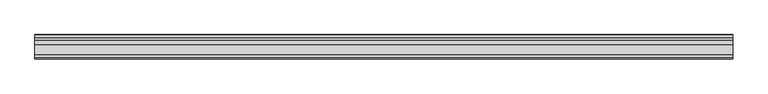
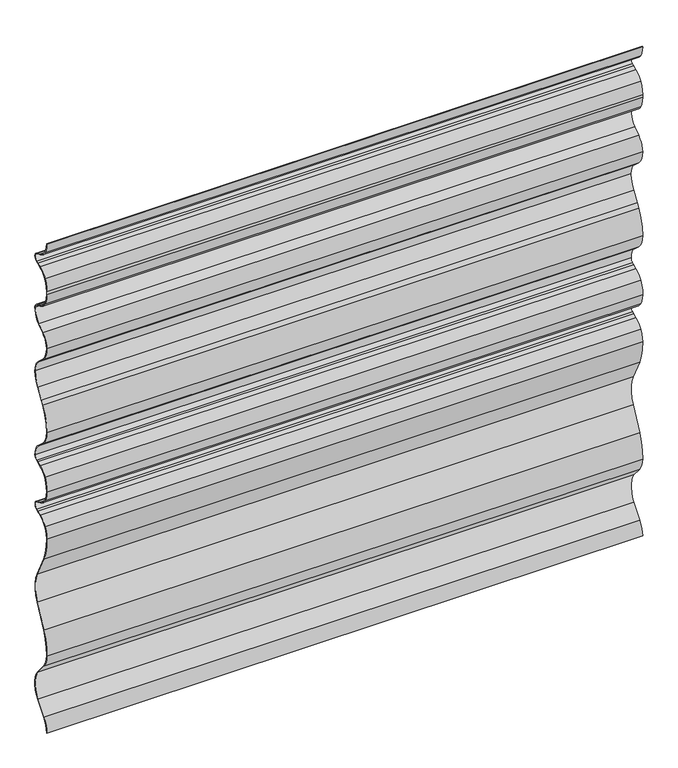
"""IFC4 building model written with IfcOpenShell, lengths in millimetres: plate geometry, Ritmica Horizontal 928 : Ritmica Horizontal 928."""

from ifc_helpers import new_model, si_unit, frame, origin, place, context, project, spatial, polyline, circle_curve, source, transform, mapped, element, save
from ifc_brep_helpers import plane_surface, cylinder_surface, revolved_surface, advanced_brep


def plate_3bc35dd9(model_context):
    return source(origin(), model_context, "Body", "AdvancedBrep", [
        advanced_brep(
        [(-534.5, 6.5092615, 908.0620129), (-534.5, 21.2621067, 895.6153968), (-534.5, 28.45755, 892.7364297), (-534.5, 31.9226364, 891.0770661), (-534.5, 31.9284533, 875.0954695), (-534.5, 28.4645758, 873.4335839), (-534.5, 21.2712303, 870.5493796), (-534.5, 6.5274495, 858.0920274), (-534.5, 0.7421798, 836.9983174), (-534.5, 0.7421798, 831.6596456), (-534.5, 6.5447465, 810.5701527), (-534.5, 21.2975918, 798.1235366), (-534.5, 28.493035, 795.2445695), (-534.5, 31.9581214, 793.5852059), (-534.5, 36.9921573, 785.5962388), (-534.5, 24.9656186, 760.6206134), (-534.5, 12.9828956, 751.0704574), (-534.5, 1.0048783, 728.5919745), (-534.5, 13.0090533, 701.127971), (-534.5, 24.9992939, 690.0241978), (-534.5, 37.0440106, 665.0573339), (-534.5, 28.6299997, 638.3240963), (-534.5, 17.4991449, 620.9910926), (-534.5, 13.1043036, 613.5575548), (-534.5, 0.921776, 569.3793833), (-534.5, 12.9259511, 541.9153798), (-534.5, 24.9161915, 530.8116067), (-534.5, 36.9609087, 505.8415328), (-534.5, 31.9326896, 497.8521133), (-534.5, 28.4688119, 496.1902275), (-534.5, 21.2754341, 493.3060102), (-534.5, 6.5316868, 480.8486726), (-534.5, 0.8337564, 457.0856569), (-534.5, 6.3430179, 437.5469103), (-534.5, 21.0958632, 425.1002943), (-534.5, 28.2913064, 422.2213272), (-534.5, 31.7563928, 420.5619636), (-534.5, 31.7622098, 404.580367), (-534.5, 28.2983323, 402.9184814), (-534.5, 21.1049867, 400.034277), (-534.5, 6.361206, 387.5769248), (-534.5, 0.8661693, 368.0341733), (-534.5, 10.0476711, 324.2892209), (-534.5, 30.4443377, 283.7581494), (-534.5, 30.4639577, 229.8542794), (-534.5, 10.0968014, 189.3083707), (-534.5, 0.9471466, 145.5567461), (-534.5, 9.5590077, 121.7925982), (-534.5, 28.254799, 99.3683726), (-534.5, 28.274038, 46.5109184), (-534.5, 9.5945757, 23.7707747), (-534.5, 1.0000163, 0.0), (-534.5, 1.63e-05, 0.0), (-534.5, 8.826039, 24.4105804), (-534.5, 27.4885473, 47.1303588), (-534.5, 27.4697594, 98.7483605), (-534.5, 8.790937, 121.1522332), (-534.5, -0.0528427, 145.5386154), (-534.5, 9.1993025, 189.7494732), (-534.5, 29.5703625, 230.3031531), (-534.5, 29.5510695, 283.3086253), (-534.5, 9.1504935, 323.8474651), (-534.5, -0.133833, 368.0515751), (-534.5, 5.5079347, 388.0983921), (-534.5, 20.7330524, 400.9625361), (-534.5, 27.895533, 403.834365), (-534.5, 31.3296428, 405.4819688), (-534.5, 31.3244823, 419.6600471), (-534.5, 27.889174, 421.3051505), (-534.5, 20.7246046, 424.1717647), (-534.5, 5.4901265, 437.024822), (-534.5, -0.1662181, 457.0529178), (-534.5, 5.6750593, 481.3646468), (-534.5, 20.9034647, 494.2342551), (-534.5, 28.0660127, 497.1061111), (-534.5, 31.5001226, 498.7537151), (-534.5, 35.9609087, 505.841531), (-534.5, 24.2645169, 530.052163), (-534.5, 12.2464871, 541.1816709), (-534.5, -0.0782183, 569.3680226), (-534.5, 12.2502128, 614.0778463), (-534.5, 16.6477304, 621.5159109), (-534.5, 27.7982686, 638.8795656), (-534.5, 36.04401, 665.0587755), (-534.5, 24.3475224, 689.2648438), (-534.5, 12.3295893, 700.3942621), (-534.5, 0.0048783, 728.5916105), (-534.5, 12.391292, 751.8777021), (-534.5, 24.342358, 761.4026277), (-534.5, 35.9921573, 785.5958749), (-534.5, 31.5262109, 792.6832895), (-534.5, 28.0909026, 794.3283929), (-534.5, 20.9248539, 797.1955989), (-534.5, 5.6893168, 810.0521734), (-534.5, -0.2558769, 831.6592816), (-534.5, -0.2578202, 836.9981365), (-534.5, 5.6708241, 858.6080051), (-534.5, 20.8992959, 871.4776387), (-534.5, 28.0617766, 874.3494676), (-534.5, 31.4958863, 875.9970713), (-534.5, 31.4907258, 890.1751497), (-534.5, 28.0554176, 891.8202531), (-534.5, 20.8908482, 894.6868673), (-534.5, 5.6563701, 907.5399245), (-534.5, 0.0, 927.600395), (-534.5, 1.0000001, 927.600395), (534.5, 6.5092615, 908.0620129), (534.5, 1.0000001, 927.600395), (534.5, 0.0, 927.600395), (534.5, 5.6563701, 907.5399245), (534.5, 20.8908482, 894.6868673), (534.5, 28.0554176, 891.8202531), (534.5, 31.4907258, 890.1751497), (534.5, 31.4958863, 875.9970713), (534.5, 28.0617766, 874.3494676), (534.5, 20.8992959, 871.4776387), (534.5, 5.6708241, 858.6080051), (534.5, -0.2578202, 836.9981365), (534.5, -0.2578202, 831.6596456), (534.5, 5.6893168, 810.0521734), (534.5, 20.9248539, 797.1955989), (534.5, 28.0909026, 794.3283929), (534.5, 31.5262109, 792.6832895), (534.5, 35.9921573, 785.5958749), (534.5, 24.342358, 761.4026277), (534.5, 12.391292, 751.8777021), (534.5, 0.0048783, 728.5916105), (534.5, 12.3295893, 700.3942621), (534.5, 24.3475224, 689.2648438), (534.5, 36.04401, 665.0587755), (534.5, 27.7982686, 638.8795656), (534.5, 16.6477304, 621.5159109), (534.5, 12.2502128, 614.0778463), (534.5, -0.0782183, 569.3680226), (534.5, 12.2464871, 541.1816709), (534.5, 24.2645169, 530.052163), (534.5, 35.9609087, 505.841531), (534.5, 31.5001226, 498.7537151), (534.5, 28.0660127, 497.1061111), (534.5, 20.9034647, 494.2342551), (534.5, 5.6750593, 481.3646468), (534.5, -0.1662181, 457.0529178), (534.5, 5.4901265, 437.024822), (534.5, 20.7246046, 424.1717647), (534.5, 27.889174, 421.3051505), (534.5, 31.3244823, 419.6600471), (534.5, 31.3296428, 405.4819688), (534.5, 27.895533, 403.834365), (534.5, 20.7330524, 400.9625361), (534.5, 5.5079347, 388.0983921), (534.5, -0.133833, 368.0515751), (534.5, 9.1504935, 323.8474651), (534.5, 29.5510695, 283.3086253), (534.5, 29.5703625, 230.3031531), (534.5, 9.1993025, 189.7494732), (534.5, -0.0528427, 145.5386154), (534.5, 8.790937, 121.1522332), (534.5, 27.4697594, 98.7483605), (534.5, 27.4885473, 47.1303588), (534.5, 8.826039, 24.4105804), (534.5, 1.63e-05, 0.0), (534.5, 1.0000163, 0.0), (534.5, 9.5945757, 23.7707747), (534.5, 28.274038, 46.5109184), (534.5, 28.254799, 99.3683726), (534.5, 9.5590077, 121.7925982), (534.5, 0.9471466, 145.5567461), (534.5, 10.0968014, 189.3083707), (534.5, 30.4639577, 229.8542794), (534.5, 30.4443377, 283.7581494), (534.5, 10.0476711, 324.2892209), (534.5, 0.8661693, 368.0341733), (534.5, 6.361206, 387.5769248), (534.5, 21.1049867, 400.034277), (534.5, 28.2983323, 402.9184814), (534.5, 31.7622098, 404.580367), (534.5, 31.7563928, 420.5619636), (534.5, 28.2913064, 422.2213272), (534.5, 21.0958632, 425.1002943), (534.5, 6.3430179, 437.5469103), (534.5, 0.8337564, 457.0856569), (534.5, 6.5316868, 480.8486726), (534.5, 21.2754341, 493.3060102), (534.5, 28.4688119, 496.1902275), (534.5, 31.9326896, 497.8521133), (534.5, 36.9609087, 505.8415328), (534.5, 24.9161915, 530.8116067), (534.5, 12.9259511, 541.9153798), (534.5, 0.921776, 569.3793833), (534.5, 13.1043036, 613.5575548), (534.5, 17.4991449, 620.9910926), (534.5, 28.6299997, 638.3240963), (534.5, 37.0440106, 665.0573339), (534.5, 24.9992939, 690.0241978), (534.5, 13.0090533, 701.127971), (534.5, 1.0048783, 728.5919745), (534.5, 12.9828956, 751.0704574), (534.5, 24.9656186, 760.6206134), (534.5, 36.9921573, 785.5962388), (534.5, 31.9581214, 793.5852059), (534.5, 28.493035, 795.2445695), (534.5, 21.2975918, 798.1235366), (534.5, 6.5447465, 810.5701527), (534.5, 0.744123, 831.6596456), (534.5, 0.7421798, 836.9983174), (534.5, 6.5274495, 858.0920274), (534.5, 21.2712303, 870.5493796), (534.5, 28.4645758, 873.4335839), (534.5, 31.9284533, 875.0954695), (534.5, 31.9226364, 891.0770661), (534.5, 28.45755, 892.7364297), (534.5, 21.2621067, 895.6153968)],
        [
            (0, 1, circle_curve(frame((-534.5, 32.6219637, 924.0466233), z_axis=(1.0, 0.0, 0.0), x_axis=(0.0, 0.0, 1.0)), 30.6166783)),
            (1, 2),
            (2, 3),
            (3, 4, circle_curve(frame((-534.5, 28.0953282, 883.0848737), z_axis=(-1.0, 0.0, 0.0), x_axis=(0.0, 0.0, 1.0)), 8.8613445)),
            (4, 5),
            (5, 6),
            (6, 7, circle_curve(frame((-534.5, 32.651781, 842.1264302), z_axis=(1.0, 0.0, 0.0), x_axis=(0.0, 0.0, 1.0)), 30.6166783)),
            (7, 8, circle_curve(frame((-534.5, 42.034972, 837.0133472), z_axis=(1.0, 0.0, 0.0), x_axis=(0.0, 0.0, 1.0)), 41.2927949)),
            (8, 9),
            (9, 10, circle_curve(frame((-534.5, 42.0369151, 831.6746753), z_axis=(1.0, 0.0, 0.0), x_axis=(0.0, 0.0, 1.0)), 41.2927949)),
            (10, 11, circle_curve(frame((-534.5, 32.8606059, 826.7955631), z_axis=(1.0, 0.0, 0.0), x_axis=(0.0, 0.0, 1.0)), 30.9158276)),
            (11, 12),
            (12, 13),
            (13, 14, circle_curve(frame((-534.5, 28.1308133, 785.5930135), z_axis=(-1.0, 0.0, 0.0), x_axis=(0.0, 0.0, 1.0)), 8.8613445)),
            (14, 15, circle_curve(frame((-534.5, 5.0694602, 785.5846196), z_axis=(-1.0, 0.0, 0.0), x_axis=(0.0, 0.0, 1.0)), 31.9226992)),
            (15, 16),
            (16, 17, circle_curve(frame((-534.5, 28.0674647, 728.6018247), z_axis=(1.0, 0.0, 0.0), x_axis=(0.0, 0.0, 1.0)), 27.0625882)),
            (17, 18, circle_curve(frame((-534.5, 38.4552002, 728.6056057), z_axis=(1.0, 0.0, 0.0), x_axis=(0.0, 0.0, 1.0)), 37.4503244)),
            (18, 19),
            (19, 20, circle_curve(frame((-534.5, 5.1213136, 665.0457146), z_axis=(-1.0, 0.0, 0.0), x_axis=(0.0, 0.0, 1.0)), 31.9226992)),
            (20, 21, circle_curve(frame((-534.5, -10.1198118, 665.2109304), z_axis=(-1.0, 0.0, 0.0), x_axis=(0.0, 0.0, 1.0)), 47.1640725)),
            (21, 22),
            (22, 23),
            (23, 24, circle_curve(frame((-534.5, 80.6713796, 571.1565204), z_axis=(1.0, 0.0, 0.0), x_axis=(0.0, 0.0, 1.0)), 79.769402)),
            (24, 25, circle_curve(frame((-534.5, 38.372098, 569.3930144), z_axis=(1.0, 0.0, 0.0), x_axis=(0.0, 0.0, 1.0)), 37.4503244)),
            (25, 26),
            (26, 27, circle_curve(frame((-534.5, 5.0555271, 505.8414768), z_axis=(-1.0, 0.0, 0.0), x_axis=(0.0, 0.0, 1.0)), 31.9053816)),
            (27, 28, circle_curve(frame((-534.5, 28.0995643, 505.8415173), z_axis=(-1.0, 0.0, 0.0), x_axis=(0.0, 0.0, 1.0)), 8.8613444)),
            (28, 29),
            (29, 30),
            (30, 31, circle_curve(frame((-534.5, 32.6560172, 464.8830737), z_axis=(1.0, 0.0, 0.0), x_axis=(0.0, 0.0, 1.0)), 30.6166783)),
            (31, 32, circle_curve(frame((-534.5, 42.0392082, 459.7699907), z_axis=(1.0, 0.0, 0.0), x_axis=(0.0, 0.0, 1.0)), 41.2927948)),
            (32, 33, circle_curve(frame((-534.5, 38.2840783, 457.0992876), z_axis=(1.0, 0.0, 0.0), x_axis=(0.0, 0.0, 1.0)), 37.4503244)),
            (33, 34, circle_curve(frame((-534.5, 32.4557202, 453.5315208), z_axis=(1.0, 0.0, 0.0), x_axis=(0.0, 0.0, 1.0)), 30.6166783)),
            (34, 35),
            (35, 36),
            (36, 37, circle_curve(frame((-534.5, 27.9290847, 412.5697711), z_axis=(-1.0, 0.0, 0.0), x_axis=(0.0, 0.0, 1.0)), 8.8613445)),
            (37, 38),
            (38, 39),
            (39, 40, circle_curve(frame((-534.5, 32.4855375, 371.6113276), z_axis=(1.0, 0.0, 0.0), x_axis=(0.0, 0.0, 1.0)), 30.6166783)),
            (40, 41, circle_curve(frame((-534.5, 38.3164913, 368.0478045), z_axis=(1.0, 0.0, 0.0), x_axis=(0.0, 0.0, 1.0)), 37.4503244)),
            (41, 42, circle_curve(frame((-534.5, 94.1023268, 364.7672254), z_axis=(1.0, 0.0, 0.0), x_axis=(0.0, 0.0, 1.0)), 93.293376)),
            (42, 43),
            (43, 44, circle_curve(frame((-534.5, -23.1517542, 256.7867029), z_axis=(-1.0, 0.0, 0.0), x_axis=(0.0, 0.0, 1.0)), 60.0)),
            (44, 45),
            (45, 46, circle_curve(frame((-534.5, 94.1809012, 148.8915653), z_axis=(1.0, 0.0, 0.0), x_axis=(0.0, 0.0, 1.0)), 93.293376)),
            (46, 47, circle_curve(frame((-534.5, 38.0785645, 145.5702612), z_axis=(1.0, 0.0, 0.0), x_axis=(0.0, 0.0, 1.0)), 37.1314203)),
            (47, 48),
            (48, 49, circle_curve(frame((-534.5, -7.0897542, 72.9267773), z_axis=(-1.0, 0.0, 0.0), x_axis=(0.0, 0.0, 1.0)), 44.1406321)),
            (49, 50),
            (50, 51, circle_curve(frame((-534.5, 38.131434, 0.0138791), z_axis=(1.0, 0.0, 0.0), x_axis=(0.0, 0.0, 1.0)), 37.1314203)),
            (51, 52),
            (52, 53, circle_curve(frame((-534.5, 38.131434, 0.0138791), z_axis=(-1.0, 0.0, 0.0), x_axis=(0.0, 0.0, 1.0)), 38.1314203)),
            (53, 54),
            (54, 55, circle_curve(frame((-534.5, -7.0897542, 72.9267773), z_axis=(1.0, 0.0, 0.0), x_axis=(0.0, 0.0, 1.0)), 43.1406321)),
            (55, 56),
            (56, 57, circle_curve(frame((-534.5, 38.0785645, 145.5702612), z_axis=(-1.0, 0.0, 0.0), x_axis=(0.0, 0.0, 1.0)), 38.1314203)),
            (57, 58, circle_curve(frame((-534.5, 94.1809012, 148.8915653), z_axis=(-1.0, 0.0, 0.0), x_axis=(0.0, 0.0, 1.0)), 94.293376)),
            (58, 59),
            (59, 60, circle_curve(frame((-534.5, -23.1517542, 256.7867029), z_axis=(1.0, 0.0, 0.0), x_axis=(0.0, 0.0, 1.0)), 59.0)),
            (60, 61),
            (61, 62, circle_curve(frame((-534.5, 94.1023268, 364.7672254), z_axis=(-1.0, 0.0, 0.0), x_axis=(0.0, 0.0, 1.0)), 94.293376)),
            (62, 63, circle_curve(frame((-534.5, 38.3164913, 368.0478045), z_axis=(-1.0, 0.0, 0.0), x_axis=(0.0, 0.0, 1.0)), 38.4503244)),
            (63, 64, circle_curve(frame((-534.5, 32.4855375, 371.6113276), z_axis=(-1.0, 0.0, 0.0), x_axis=(0.0, 0.0, 1.0)), 31.6166783)),
            (64, 65),
            (65, 66),
            (66, 67, circle_curve(frame((-534.5, 27.9290847, 412.5697711), z_axis=(1.0, 0.0, 0.0), x_axis=(0.0, 0.0, 1.0)), 7.8613445)),
            (67, 68),
            (68, 69),
            (69, 70, circle_curve(frame((-534.5, 32.4557202, 453.5315208), z_axis=(-1.0, 0.0, 0.0), x_axis=(0.0, 0.0, 1.0)), 31.6166783)),
            (70, 71, circle_curve(frame((-534.5, 38.2840783, 457.0992876), z_axis=(-1.0, 0.0, 0.0), x_axis=(0.0, 0.0, 1.0)), 38.4503244)),
            (71, 72, circle_curve(frame((-534.5, 42.0392082, 459.7699907), z_axis=(-1.0, 0.0, 0.0), x_axis=(0.0, 0.0, 1.0)), 42.2927948)),
            (72, 73, circle_curve(frame((-534.5, 32.6560172, 464.8830737), z_axis=(-1.0, 0.0, 0.0), x_axis=(0.0, 0.0, 1.0)), 31.6166782)),
            (73, 74),
            (74, 75),
            (75, 76, circle_curve(frame((-534.5, 28.0995643, 505.8415173), z_axis=(1.0, 0.0, 0.0), x_axis=(0.0, 0.0, 1.0)), 7.8613444)),
            (76, 77, circle_curve(frame((-534.5, 5.0555271, 505.8414768), z_axis=(1.0, 0.0, 0.0), x_axis=(0.0, 0.0, 1.0)), 30.9053816)),
            (77, 78),
            (78, 79, circle_curve(frame((-534.5, 38.372098, 569.3930144), z_axis=(-1.0, 0.0, 0.0), x_axis=(0.0, 0.0, 1.0)), 38.4503244)),
            (79, 80, circle_curve(frame((-534.5, 80.6713796, 571.1565204), z_axis=(-1.0, 0.0, 0.0), x_axis=(0.0, 0.0, 1.0)), 80.769402)),
            (80, 81),
            (81, 82),
            (82, 83, circle_curve(frame((-534.5, -10.1198118, 665.2109304), z_axis=(1.0, 0.0, 0.0), x_axis=(0.0, 0.0, 1.0)), 46.1640725)),
            (83, 84, circle_curve(frame((-534.5, 5.1213136, 665.0457146), z_axis=(1.0, 0.0, 0.0), x_axis=(0.0, 0.0, 1.0)), 30.9226992)),
            (84, 85),
            (85, 86, circle_curve(frame((-534.5, 38.4552002, 728.6056057), z_axis=(-1.0, 0.0, 0.0), x_axis=(0.0, 0.0, 1.0)), 38.4503244)),
            (86, 87, circle_curve(frame((-534.5, 28.0674647, 728.6018247), z_axis=(-1.0, 0.0, 0.0), x_axis=(0.0, 0.0, 1.0)), 28.0625882)),
            (87, 88),
            (88, 89, circle_curve(frame((-534.5, 5.0694602, 785.5846196), z_axis=(1.0, 0.0, 0.0), x_axis=(0.0, 0.0, 1.0)), 30.9226992)),
            (89, 90, circle_curve(frame((-534.5, 28.1308133, 785.5930135), z_axis=(1.0, 0.0, 0.0), x_axis=(0.0, 0.0, 1.0)), 7.8613445)),
            (90, 91),
            (91, 92),
            (92, 93, circle_curve(frame((-534.5, 32.8606059, 826.7955631), z_axis=(-1.0, 0.0, 0.0), x_axis=(0.0, 0.0, 1.0)), 31.9158276)),
            (93, 94, circle_curve(frame((-534.5, 42.0369151, 831.6746753), z_axis=(-1.0, 0.0, 0.0), x_axis=(0.0, 0.0, 1.0)), 42.2927949)),
            (94, 95),
            (95, 96, circle_curve(frame((-534.5, 42.034972, 837.0133472), z_axis=(-1.0, 0.0, 0.0), x_axis=(0.0, 0.0, 1.0)), 42.2927949)),
            (96, 97, circle_curve(frame((-534.5, 32.651781, 842.1264302), z_axis=(-1.0, 0.0, 0.0), x_axis=(0.0, 0.0, 1.0)), 31.6166783)),
            (97, 98),
            (98, 99),
            (99, 100, circle_curve(frame((-534.5, 28.0953282, 883.0848737), z_axis=(1.0, 0.0, 0.0), x_axis=(0.0, 0.0, 1.0)), 7.8613445)),
            (100, 101),
            (101, 102),
            (102, 103, circle_curve(frame((-534.5, 32.6219637, 924.0466233), z_axis=(-1.0, 0.0, 0.0), x_axis=(0.0, 0.0, 1.0)), 31.6166783)),
            (103, 104, circle_curve(frame((-534.5, 38.4503219, 927.6143902), z_axis=(-1.0, 0.0, 0.0), x_axis=(0.0, 0.0, 1.0)), 38.4503244)),
            (104, 105),
            (105, 0, circle_curve(frame((-534.5, 38.4503219, 927.6143902), z_axis=(1.0, 0.0, 0.0), x_axis=(0.0, 0.0, 1.0)), 37.4503244)),
            (106, 107, circle_curve(frame((534.5, 38.4503219, 927.6143902), z_axis=(-1.0, 0.0, 0.0), x_axis=(0.0, 0.0, 1.0)), 37.4503244)),
            (107, 108),
            (108, 109, circle_curve(frame((534.5, 38.4503219, 927.6143902), z_axis=(1.0, 0.0, 0.0), x_axis=(0.0, 0.0, 1.0)), 38.4503244)),
            (109, 110, circle_curve(frame((534.5, 32.6219637, 924.0466233), z_axis=(1.0, 0.0, 0.0), x_axis=(0.0, 0.0, 1.0)), 31.6166783)),
            (110, 111),
            (111, 112),
            (112, 113, circle_curve(frame((534.5, 28.0953282, 883.0848737), z_axis=(-1.0, 0.0, 0.0), x_axis=(0.0, 0.0, 1.0)), 7.8613445)),
            (113, 114),
            (114, 115),
            (115, 116, circle_curve(frame((534.5, 32.651781, 842.1264302), z_axis=(1.0, 0.0, 0.0), x_axis=(0.0, 0.0, 1.0)), 31.6166783)),
            (116, 117, circle_curve(frame((534.5, 42.034972, 837.0133472), z_axis=(1.0, 0.0, 0.0), x_axis=(0.0, 0.0, 1.0)), 42.2927949)),
            (117, 118),
            (118, 119, circle_curve(frame((534.5, 42.0369151, 831.6746753), z_axis=(1.0, 0.0, 0.0), x_axis=(0.0, 0.0, 1.0)), 42.2927949)),
            (119, 120, circle_curve(frame((534.5, 32.8606059, 826.7955631), z_axis=(1.0, 0.0, 0.0), x_axis=(0.0, 0.0, 1.0)), 31.9158276)),
            (120, 121),
            (121, 122),
            (122, 123, circle_curve(frame((534.5, 28.1308133, 785.5930135), z_axis=(-1.0, 0.0, 0.0), x_axis=(0.0, 0.0, 1.0)), 7.8613445)),
            (123, 124, circle_curve(frame((534.5, 5.0694602, 785.5846196), z_axis=(-1.0, 0.0, 0.0), x_axis=(0.0, 0.0, 1.0)), 30.9226992)),
            (124, 125),
            (125, 126, circle_curve(frame((534.5, 28.0674647, 728.6018247), z_axis=(1.0, 0.0, 0.0), x_axis=(0.0, 0.0, 1.0)), 28.0625882)),
            (126, 127, circle_curve(frame((534.5, 38.4552002, 728.6056057), z_axis=(1.0, 0.0, 0.0), x_axis=(0.0, 0.0, 1.0)), 38.4503244)),
            (127, 128),
            (128, 129, circle_curve(frame((534.5, 5.1213136, 665.0457146), z_axis=(-1.0, 0.0, 0.0), x_axis=(0.0, 0.0, 1.0)), 30.9226992)),
            (129, 130, circle_curve(frame((534.5, -10.1198118, 665.2109304), z_axis=(-1.0, 0.0, 0.0), x_axis=(0.0, 0.0, 1.0)), 46.1640725)),
            (130, 131),
            (131, 132),
            (132, 133, circle_curve(frame((534.5, 80.6713796, 571.1565204), z_axis=(1.0, 0.0, 0.0), x_axis=(0.0, 0.0, 1.0)), 80.769402)),
            (133, 134, circle_curve(frame((534.5, 38.372098, 569.3930144), z_axis=(1.0, 0.0, 0.0), x_axis=(0.0, 0.0, 1.0)), 38.4503244)),
            (134, 135),
            (135, 136, circle_curve(frame((534.5, 5.0555271, 505.8414768), z_axis=(-1.0, 0.0, 0.0), x_axis=(0.0, 0.0, 1.0)), 30.9053816)),
            (136, 137, circle_curve(frame((534.5, 28.0995643, 505.8415173), z_axis=(-1.0, 0.0, 0.0), x_axis=(0.0, 0.0, 1.0)), 7.8613444)),
            (137, 138),
            (138, 139),
            (139, 140, circle_curve(frame((534.5, 32.6560172, 464.8830737), z_axis=(1.0, 0.0, 0.0), x_axis=(0.0, 0.0, 1.0)), 31.6166782)),
            (140, 141, circle_curve(frame((534.5, 42.0392082, 459.7699907), z_axis=(1.0, 0.0, 0.0), x_axis=(0.0, 0.0, 1.0)), 42.2927948)),
            (141, 142, circle_curve(frame((534.5, 38.2840783, 457.0992876), z_axis=(1.0, 0.0, 0.0), x_axis=(0.0, 0.0, 1.0)), 38.4503244)),
            (142, 143, circle_curve(frame((534.5, 32.4557202, 453.5315208), z_axis=(1.0, 0.0, 0.0), x_axis=(0.0, 0.0, 1.0)), 31.6166783)),
            (143, 144),
            (144, 145),
            (145, 146, circle_curve(frame((534.5, 27.9290847, 412.5697711), z_axis=(-1.0, 0.0, 0.0), x_axis=(0.0, 0.0, 1.0)), 7.8613445)),
            (146, 147),
            (147, 148),
            (148, 149, circle_curve(frame((534.5, 32.4855375, 371.6113276), z_axis=(1.0, 0.0, 0.0), x_axis=(0.0, 0.0, 1.0)), 31.6166783)),
            (149, 150, circle_curve(frame((534.5, 38.3164913, 368.0478045), z_axis=(1.0, 0.0, 0.0), x_axis=(0.0, 0.0, 1.0)), 38.4503244)),
            (150, 151, circle_curve(frame((534.5, 94.1023268, 364.7672254), z_axis=(1.0, 0.0, 0.0), x_axis=(0.0, 0.0, 1.0)), 94.293376)),
            (151, 152),
            (152, 153, circle_curve(frame((534.5, -23.1517542, 256.7867029), z_axis=(-1.0, 0.0, 0.0), x_axis=(0.0, 0.0, 1.0)), 59.0)),
            (153, 154),
            (154, 155, circle_curve(frame((534.5, 94.1809012, 148.8915653), z_axis=(1.0, 0.0, 0.0), x_axis=(0.0, 0.0, 1.0)), 94.293376)),
            (155, 156, circle_curve(frame((534.5, 38.0785645, 145.5702612), z_axis=(1.0, 0.0, 0.0), x_axis=(0.0, 0.0, 1.0)), 38.1314203)),
            (156, 157),
            (157, 158, circle_curve(frame((534.5, -7.0897542, 72.9267773), z_axis=(-1.0, 0.0, 0.0), x_axis=(0.0, 0.0, 1.0)), 43.1406321)),
            (158, 159),
            (159, 160, circle_curve(frame((534.5, 38.131434, 0.0138791), z_axis=(1.0, 0.0, 0.0), x_axis=(0.0, 0.0, 1.0)), 38.1314203)),
            (160, 161),
            (161, 162, circle_curve(frame((534.5, 38.131434, 0.0138791), z_axis=(-1.0, 0.0, 0.0), x_axis=(0.0, 0.0, 1.0)), 37.1314203)),
            (162, 163),
            (163, 164, circle_curve(frame((534.5, -7.0897542, 72.9267773), z_axis=(1.0, 0.0, 0.0), x_axis=(0.0, 0.0, 1.0)), 44.1406321)),
            (164, 165),
            (165, 166, circle_curve(frame((534.5, 38.0785645, 145.5702612), z_axis=(-1.0, 0.0, 0.0), x_axis=(0.0, 0.0, 1.0)), 37.1314203)),
            (166, 167, circle_curve(frame((534.5, 94.1809012, 148.8915653), z_axis=(-1.0, 0.0, 0.0), x_axis=(0.0, 0.0, 1.0)), 93.293376)),
            (167, 168),
            (168, 169, circle_curve(frame((534.5, -23.1517542, 256.7867029), z_axis=(1.0, 0.0, 0.0), x_axis=(0.0, 0.0, 1.0)), 60.0)),
            (169, 170),
            (170, 171, circle_curve(frame((534.5, 94.1023268, 364.7672254), z_axis=(-1.0, 0.0, 0.0), x_axis=(0.0, 0.0, 1.0)), 93.293376)),
            (171, 172, circle_curve(frame((534.5, 38.3164913, 368.0478045), z_axis=(-1.0, 0.0, 0.0), x_axis=(0.0, 0.0, 1.0)), 37.4503244)),
            (172, 173, circle_curve(frame((534.5, 32.4855375, 371.6113276), z_axis=(-1.0, 0.0, 0.0), x_axis=(0.0, 0.0, 1.0)), 30.6166783)),
            (173, 174),
            (174, 175),
            (175, 176, circle_curve(frame((534.5, 27.9290847, 412.5697711), z_axis=(1.0, 0.0, 0.0), x_axis=(0.0, 0.0, 1.0)), 8.8613445)),
            (176, 177),
            (177, 178),
            (178, 179, circle_curve(frame((534.5, 32.4557202, 453.5315208), z_axis=(-1.0, 0.0, 0.0), x_axis=(0.0, 0.0, 1.0)), 30.6166783)),
            (179, 180, circle_curve(frame((534.5, 38.2840783, 457.0992876), z_axis=(-1.0, 0.0, 0.0), x_axis=(0.0, 0.0, 1.0)), 37.4503244)),
            (180, 181, circle_curve(frame((534.5, 42.0392082, 459.7699907), z_axis=(-1.0, 0.0, 0.0), x_axis=(0.0, 0.0, 1.0)), 41.2927948)),
            (181, 182, circle_curve(frame((534.5, 32.6560172, 464.8830737), z_axis=(-1.0, 0.0, 0.0), x_axis=(0.0, 0.0, 1.0)), 30.6166783)),
            (182, 183),
            (183, 184),
            (184, 185, circle_curve(frame((534.5, 28.0995643, 505.8415173), z_axis=(1.0, 0.0, 0.0), x_axis=(0.0, 0.0, 1.0)), 8.8613444)),
            (185, 186, circle_curve(frame((534.5, 5.0555271, 505.8414768), z_axis=(1.0, 0.0, 0.0), x_axis=(0.0, 0.0, 1.0)), 31.9053816)),
            (186, 187),
            (187, 188, circle_curve(frame((534.5, 38.372098, 569.3930144), z_axis=(-1.0, 0.0, 0.0), x_axis=(0.0, 0.0, 1.0)), 37.4503244)),
            (188, 189, circle_curve(frame((534.5, 80.6713796, 571.1565204), z_axis=(-1.0, 0.0, 0.0), x_axis=(0.0, 0.0, 1.0)), 79.769402)),
            (189, 190),
            (190, 191),
            (191, 192, circle_curve(frame((534.5, -10.1198118, 665.2109304), z_axis=(1.0, 0.0, 0.0), x_axis=(0.0, 0.0, 1.0)), 47.1640725)),
            (192, 193, circle_curve(frame((534.5, 5.1213136, 665.0457146), z_axis=(1.0, 0.0, 0.0), x_axis=(0.0, 0.0, 1.0)), 31.9226992)),
            (193, 194),
            (194, 195, circle_curve(frame((534.5, 38.4552002, 728.6056057), z_axis=(-1.0, 0.0, 0.0), x_axis=(0.0, 0.0, 1.0)), 37.4503244)),
            (195, 196, circle_curve(frame((534.5, 28.0674647, 728.6018247), z_axis=(-1.0, 0.0, 0.0), x_axis=(0.0, 0.0, 1.0)), 27.0625882)),
            (196, 197),
            (197, 198, circle_curve(frame((534.5, 5.0694602, 785.5846196), z_axis=(1.0, 0.0, 0.0), x_axis=(0.0, 0.0, 1.0)), 31.9226992)),
            (198, 199, circle_curve(frame((534.5, 28.1308133, 785.5930135), z_axis=(1.0, 0.0, 0.0), x_axis=(0.0, 0.0, 1.0)), 8.8613445)),
            (199, 200),
            (200, 201),
            (201, 202, circle_curve(frame((534.5, 32.8606059, 826.7955631), z_axis=(-1.0, 0.0, 0.0), x_axis=(0.0, 0.0, 1.0)), 30.9158276)),
            (202, 203, circle_curve(frame((534.5, 42.0369151, 831.6746753), z_axis=(-1.0, 0.0, 0.0), x_axis=(0.0, 0.0, 1.0)), 41.2927949)),
            (203, 204),
            (204, 205, circle_curve(frame((534.5, 42.034972, 837.0133472), z_axis=(-1.0, 0.0, 0.0), x_axis=(0.0, 0.0, 1.0)), 41.2927949)),
            (205, 206, circle_curve(frame((534.5, 32.651781, 842.1264302), z_axis=(-1.0, 0.0, 0.0), x_axis=(0.0, 0.0, 1.0)), 30.6166783)),
            (206, 207),
            (207, 208),
            (208, 209, circle_curve(frame((534.5, 28.0953282, 883.0848737), z_axis=(1.0, 0.0, 0.0), x_axis=(0.0, 0.0, 1.0)), 8.8613445)),
            (209, 210),
            (210, 211),
            (211, 106, circle_curve(frame((534.5, 32.6219637, 924.0466233), z_axis=(-1.0, 0.0, 0.0), x_axis=(0.0, 0.0, 1.0)), 30.6166783)),
            (0, 106),
            (211, 1),
            (210, 2),
            (209, 3),
            (208, 4),
            (207, 5),
            (206, 6),
            (205, 7),
            (204, 8),
            (203, 9),
            (202, 10),
            (201, 11),
            (200, 12),
            (199, 13),
            (198, 14),
            (197, 15),
            (196, 16),
            (195, 17),
            (194, 18),
            (193, 19),
            (192, 20),
            (191, 21),
            (190, 22),
            (189, 23),
            (188, 24),
            (187, 25),
            (186, 26),
            (185, 27),
            (184, 28),
            (183, 29),
            (182, 30),
            (181, 31),
            (180, 32),
            (179, 33),
            (178, 34),
            (177, 35),
            (176, 36),
            (175, 37),
            (174, 38),
            (173, 39),
            (172, 40),
            (171, 41),
            (170, 42),
            (169, 43),
            (168, 44),
            (167, 45),
            (166, 46),
            (165, 47),
            (164, 48),
            (163, 49),
            (162, 50),
            (161, 51),
            (160, 52),
            (159, 53),
            (158, 54),
            (157, 55),
            (156, 56),
            (155, 57),
            (154, 58),
            (153, 59),
            (152, 60),
            (151, 61),
            (150, 62),
            (149, 63),
            (148, 64),
            (147, 65),
            (146, 66),
            (145, 67),
            (144, 68),
            (143, 69),
            (142, 70),
            (141, 71),
            (140, 72),
            (139, 73),
            (138, 74),
            (137, 75),
            (136, 76),
            (135, 77),
            (134, 78),
            (133, 79),
            (132, 80),
            (131, 81),
            (130, 82),
            (129, 83),
            (128, 84),
            (127, 85),
            (126, 86),
            (125, 87),
            (124, 88),
            (123, 89),
            (122, 90),
            (121, 91),
            (120, 92),
            (119, 93),
            (118, 94),
            (117, 95),
            (116, 96),
            (115, 97),
            (114, 98),
            (113, 99),
            (112, 100),
            (111, 101),
            (110, 102),
            (109, 103),
            (108, 104),
            (107, 105),
        ],
        [
            plane_surface(frame((-534.5, 32.6219637, 954.6633016), z_axis=(-1.0, 0.0, 0.0), x_axis=(0.0, -1.0, 0.0))),
            plane_surface(frame((534.5, 32.6219637, 954.6633016), z_axis=(1.0, 0.0, 0.0), x_axis=(0.0, 1.0, 0.0))),
            revolved_surface(polyline([(534.5, 32.6219637, 954.6633016), (-534.5, 32.6219637, 954.6633016)]), (534.5, 32.6219637, 924.0466233), (1.0, 0.0, 0.0)),
            plane_surface(frame((-534.5, 21.2621067, 895.6153968), z_axis=(0.0, 0.3714785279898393, 0.9284415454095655), x_axis=(1.0, 0.0, 0.0))),
            plane_surface(frame((-534.5, 28.45755, 892.7364297), z_axis=(0.0, 0.43191054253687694, 0.9019164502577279), x_axis=(1.0, 0.0, 0.0))),
            cylinder_surface(frame((534.5, 28.0953282, 883.0848737), z_axis=(-1.0, 0.0, 0.0), x_axis=(0.0, 0.0, 1.0)), 8.8613445),
            plane_surface(frame((-534.5, 31.9284533, 875.0954695), z_axis=(0.0, 0.43256698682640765, -0.9016017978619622), x_axis=(1.0, 0.0, 0.0))),
            plane_surface(frame((-534.5, 28.4645758, 873.4335839), z_axis=(0.0, 0.3721542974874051, -0.928170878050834), x_axis=(1.0, 0.0, 0.0))),
            revolved_surface(polyline([(534.5, 32.651781, 872.7431085), (-534.5, 32.651781, 872.7431085)]), (534.5, 32.651781, 842.1264302), (1.0, 0.0, 0.0)),
            revolved_surface(polyline([(534.5, 42.034972, 878.3061421), (-534.5, 42.034972, 878.3061421)]), (534.5, 42.034972, 837.0133472), (1.0, 0.0, 0.0)),
            plane_surface(frame((-534.5, 0.7421798, 836.9983174), z_axis=(0.0, 1.0, 0.0), x_axis=(1.0, 0.0, 0.0))),
            revolved_surface(polyline([(534.5, 42.0369151, 872.9674702), (-534.5, 42.0369151, 872.9674702)]), (534.5, 42.0369151, 831.6746753), (1.0, 0.0, 0.0)),
            revolved_surface(polyline([(534.5, 32.8606059, 857.7113907), (-534.5, 32.8606059, 857.7113907)]), (534.5, 32.8606059, 826.7955631), (1.0, 0.0, 0.0)),
            plane_surface(frame((-534.5, 21.2975918, 798.1235366), z_axis=(0.0, 0.3714785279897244, 0.9284415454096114), x_axis=(1.0, 0.0, 0.0))),
            plane_surface(frame((-534.5, 28.493035, 795.2445695), z_axis=(0.0, 0.4319105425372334, 0.9019164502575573), x_axis=(1.0, 0.0, 0.0))),
            cylinder_surface(frame((534.5, 28.1308133, 785.5930135), z_axis=(-1.0, 0.0, 0.0), x_axis=(0.0, 0.0, 1.0)), 8.8613445),
            cylinder_surface(frame((534.5, 5.0694602, 785.5846196), z_axis=(-1.0, 0.0, 0.0), x_axis=(0.0, 0.0, 1.0)), 31.9226992),
            plane_surface(frame((-534.5, 24.9656186, 760.6206134), z_axis=(0.0, 0.6232605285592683, -0.7820142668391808), x_axis=(1.0, 0.0, 0.0))),
            revolved_surface(polyline([(534.5, 28.0674647, 755.6644129), (-534.5, 28.0674647, 755.6644129)]), (534.5, 28.0674647, 728.6018247), (1.0, 0.0, 0.0)),
            revolved_surface(polyline([(534.5, 38.4552002, 766.0559301), (-534.5, 38.4552002, 766.0559301)]), (534.5, 38.4552002, 728.6056057), (1.0, 0.0, 0.0)),
            plane_surface(frame((-534.5, 13.0090533, 701.127971), z_axis=(0.0, 0.6794639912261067, 0.7337088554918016), x_axis=(1.0, 0.0, 0.0))),
            cylinder_surface(frame((534.5, 5.1213136, 665.0457146), z_axis=(-1.0, 0.0, 0.0), x_axis=(0.0, 0.0, 1.0)), 31.9226992),
            cylinder_surface(frame((534.5, -10.1198118, 665.2109304), z_axis=(-1.0, 0.0, 0.0), x_axis=(0.0, 0.0, 1.0)), 47.1640725),
            plane_surface(frame((-534.5, 28.6299997, 638.3240963), z_axis=(0.0, 0.8414387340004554, -0.5403525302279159), x_axis=(1.0, 0.0, 0.0))),
            plane_surface(frame((-534.5, 17.4991449, 620.9910926), z_axis=(0.0, 0.8608100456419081, -0.5089263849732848), x_axis=(1.0, 0.0, 0.0))),
            revolved_surface(polyline([(534.5, 80.6713796, 650.9259224), (-534.5, 80.6713796, 650.9259224)]), (534.5, 80.6713796, 571.1565204), (1.0, 0.0, 0.0)),
            revolved_surface(polyline([(534.5, 38.372098, 606.8433388), (-534.5, 38.372098, 606.8433388)]), (534.5, 38.372098, 569.3930144), (1.0, 0.0, 0.0)),
            plane_surface(frame((-534.5, 12.9259511, 541.9153798), z_axis=(0.0, 0.6794639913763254, 0.7337088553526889), x_axis=(1.0, 0.0, 0.0))),
            cylinder_surface(frame((534.5, 5.0555271, 505.8414768), z_axis=(-1.0, 0.0, 0.0), x_axis=(0.0, 0.0, 1.0)), 31.9053816),
            cylinder_surface(frame((534.5, 28.0995643, 505.8415173), z_axis=(-1.0, 0.0, 0.0), x_axis=(0.0, 0.0, 1.0)), 8.8613444),
            plane_surface(frame((-534.5, 31.9326896, 497.8521133), z_axis=(0.0, 0.43256701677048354, -0.9016017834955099), x_axis=(1.0, 0.0, 0.0))),
            plane_surface(frame((-534.5, 28.4688119, 496.1902275), z_axis=(0.0, 0.37215430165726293, -0.9281708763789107), x_axis=(1.0, 0.0, 0.0))),
            revolved_surface(polyline([(534.5, 32.6560172, 495.499752), (-534.5, 32.6560172, 495.499752)]), (534.5, 32.6560172, 464.8830737), (1.0, 0.0, 0.0)),
            revolved_surface(polyline([(534.5, 42.0392082, 501.0627855), (-534.5, 42.0392082, 501.0627855)]), (534.5, 42.0392082, 459.7699907), (1.0, 0.0, 0.0)),
            revolved_surface(polyline([(534.5, 38.2840783, 494.549612), (-534.5, 38.2840783, 494.549612)]), (534.5, 38.2840783, 457.0992876), (1.0, 0.0, 0.0)),
            revolved_surface(polyline([(534.5, 32.4557202, 484.1481991), (-534.5, 32.4557202, 484.1481991)]), (534.5, 32.4557202, 453.5315208), (1.0, 0.0, 0.0)),
            plane_surface(frame((-534.5, 21.0958632, 425.1002943), z_axis=(0.0, 0.3714785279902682, 0.9284415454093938), x_axis=(1.0, 0.0, 0.0))),
            plane_surface(frame((-534.5, 28.2913064, 422.2213272), z_axis=(0.0, 0.43191054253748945, 0.9019164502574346), x_axis=(1.0, 0.0, 0.0))),
            cylinder_surface(frame((534.5, 27.9290847, 412.5697711), z_axis=(-1.0, 0.0, 0.0), x_axis=(0.0, 0.0, 1.0)), 8.8613445),
            plane_surface(frame((-534.5, 31.7622098, 404.580367), z_axis=(0.0, 0.432566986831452, -0.901601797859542), x_axis=(1.0, 0.0, 0.0))),
            plane_surface(frame((-534.5, 28.2983323, 402.9184814), z_axis=(0.0, 0.3721542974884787, -0.9281708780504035), x_axis=(1.0, 0.0, 0.0))),
            revolved_surface(polyline([(534.5, 32.4855375, 402.22800589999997), (-534.5, 32.4855375, 402.22800589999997)]), (534.5, 32.4855375, 371.6113276), (1.0, 0.0, 0.0)),
            revolved_surface(polyline([(534.5, 38.3164913, 405.4981289), (-534.5, 38.3164913, 405.4981289)]), (534.5, 38.3164913, 368.0478045), (1.0, 0.0, 0.0)),
            revolved_surface(polyline([(534.5, 94.1023268, 458.0606014), (-534.5, 94.1023268, 458.0606014)]), (534.5, 94.1023268, 364.7672254), (1.0, 0.0, 0.0)),
            plane_surface(frame((-534.5, 10.0476711, 324.2892209), z_axis=(0.0, 0.8932681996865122, 0.4495241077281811), x_axis=(1.0, 0.0, 0.0))),
            cylinder_surface(frame((534.5, -23.1517542, 256.7867029), z_axis=(-1.0, 0.0, 0.0), x_axis=(0.0, 0.0, 1.0)), 60.0),
            plane_surface(frame((-534.5, 30.4639577, 229.8542794), z_axis=(0.0, 0.8935951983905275, -0.44887372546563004), x_axis=(1.0, 0.0, 0.0))),
            revolved_surface(polyline([(534.5, 94.1809012, 242.1849413), (-534.5, 94.1809012, 242.1849413)]), (534.5, 94.1809012, 148.8915653), (1.0, 0.0, 0.0)),
            revolved_surface(polyline([(534.5, 38.0785645, 182.7016815), (-534.5, 38.0785645, 182.7016815)]), (534.5, 38.0785645, 145.5702612), (1.0, 0.0, 0.0)),
            plane_surface(frame((-534.5, 9.5590077, 121.7925982), z_axis=(0.0, 0.768070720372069, 0.640365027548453), x_axis=(1.0, 0.0, 0.0))),
            cylinder_surface(frame((534.5, -7.0897542, 72.9267773), z_axis=(-1.0, 0.0, 0.0), x_axis=(0.0, 0.0, 1.0)), 44.1406321),
            plane_surface(frame((-534.5, 28.274038, 46.5109184), z_axis=(0.0, 0.7727252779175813, -0.6347406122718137), x_axis=(1.0, 0.0, 0.0))),
            revolved_surface(polyline([(534.5, 38.131434, 37.1452994), (-534.5, 38.131434, 37.1452994)]), (534.5, 38.131434, 0.0138791), (1.0, 0.0, 0.0)),
            plane_surface(frame((-534.5, 1.0000163, 0.0), z_axis=(0.0, 0.0, -1.0), x_axis=(1.0, 0.0, 0.0))),
            cylinder_surface(frame((534.5, 38.131434, 0.0138791), z_axis=(-1.0, 0.0, 0.0), x_axis=(0.0, 0.0, 1.0)), 38.1314203),
            plane_surface(frame((-534.5, 8.826039, 24.4105804), z_axis=(0.0, -0.772729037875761, 0.6347360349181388), x_axis=(1.0, 0.0, 0.0))),
            revolved_surface(polyline([(534.5, -7.0897542, 116.0674094), (-534.5, -7.0897542, 116.0674094)]), (534.5, -7.0897542, 72.9267773), (1.0, 0.0, 0.0)),
            plane_surface(frame((-534.5, 27.4697594, 98.7483605), z_axis=(0.0, -0.7680707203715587, -0.6403650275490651), x_axis=(1.0, 0.0, 0.0))),
            cylinder_surface(frame((534.5, 38.0785645, 145.5702612), z_axis=(-1.0, 0.0, 0.0), x_axis=(0.0, 0.0, 1.0)), 38.1314203),
            cylinder_surface(frame((534.5, 94.1809012, 148.8915653), z_axis=(-1.0, 0.0, 0.0), x_axis=(0.0, 0.0, 1.0)), 94.293376),
            plane_surface(frame((-534.5, 9.1993025, 189.7494732), z_axis=(0.0, -0.893595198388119, 0.448873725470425), x_axis=(1.0, 0.0, 0.0))),
            revolved_surface(polyline([(534.5, -23.1517542, 315.7867029), (-534.5, -23.1517542, 315.7867029)]), (534.5, -23.1517542, 256.7867029), (1.0, 0.0, 0.0)),
            plane_surface(frame((-534.5, 29.5510695, 283.3086253), z_axis=(0.0, -0.8932681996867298, -0.4495241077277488), x_axis=(1.0, 0.0, 0.0))),
            cylinder_surface(frame((534.5, 94.1023268, 364.7672254), z_axis=(-1.0, 0.0, 0.0), x_axis=(0.0, 0.0, 1.0)), 94.293376),
            cylinder_surface(frame((534.5, 38.3164913, 368.0478045), z_axis=(-1.0, 0.0, 0.0), x_axis=(0.0, 0.0, 1.0)), 38.4503244),
            cylinder_surface(frame((534.5, 32.4855375, 371.6113276), z_axis=(-1.0, 0.0, 0.0), x_axis=(0.0, 0.0, 1.0)), 31.6166783),
            plane_surface(frame((-534.5, 20.7330524, 400.9625361), z_axis=(0.0, -0.3721542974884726, 0.9281708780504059), x_axis=(1.0, 0.0, 0.0))),
            plane_surface(frame((-534.5, 27.895533, 403.834365), z_axis=(0.0, -0.43256698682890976, 0.9016017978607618), x_axis=(1.0, 0.0, 0.0))),
            revolved_surface(polyline([(534.5, 27.9290847, 420.4311156), (-534.5, 27.9290847, 420.4311156)]), (534.5, 27.9290847, 412.5697711), (1.0, 0.0, 0.0)),
            plane_surface(frame((-534.5, 31.3244823, 419.6600471), z_axis=(0.0, -0.43191054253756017, -0.9019164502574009), x_axis=(1.0, 0.0, 0.0))),
            plane_surface(frame((-534.5, 27.889174, 421.3051505), z_axis=(0.0, -0.3714785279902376, -0.9284415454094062), x_axis=(1.0, 0.0, 0.0))),
            cylinder_surface(frame((534.5, 32.4557202, 453.5315208), z_axis=(-1.0, 0.0, 0.0), x_axis=(0.0, 0.0, 1.0)), 31.6166783),
            cylinder_surface(frame((534.5, 38.2840783, 457.0992876), z_axis=(-1.0, 0.0, 0.0), x_axis=(0.0, 0.0, 1.0)), 38.4503244),
            cylinder_surface(frame((534.5, 42.0392082, 459.7699907), z_axis=(-1.0, 0.0, 0.0), x_axis=(0.0, 0.0, 1.0)), 42.2927948),
            cylinder_surface(frame((534.5, 32.6560172, 464.8830737), z_axis=(-1.0, 0.0, 0.0), x_axis=(0.0, 0.0, 1.0)), 31.6166782),
            plane_surface(frame((-534.5, 20.9034647, 494.2342551), z_axis=(0.0, -0.3721543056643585, 0.9281708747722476), x_axis=(1.0, 0.0, 0.0))),
            plane_surface(frame((-534.5, 28.0660127, 497.1061111), z_axis=(0.0, -0.43256701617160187, 0.9016017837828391), x_axis=(1.0, 0.0, 0.0))),
            revolved_surface(polyline([(534.5, 28.0995643, 513.7028617), (-534.5, 28.0995643, 513.7028617)]), (534.5, 28.0995643, 505.8415173), (1.0, 0.0, 0.0)),
            revolved_surface(polyline([(534.5, 5.0555271, 536.7468584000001), (-534.5, 5.0555271, 536.7468584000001)]), (534.5, 5.0555271, 505.8414768), (1.0, 0.0, 0.0)),
            plane_surface(frame((-534.5, 24.2645169, 530.052163), z_axis=(0.0, -0.6794639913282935, -0.7337088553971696), x_axis=(1.0, 0.0, 0.0))),
            cylinder_surface(frame((534.5, 38.372098, 569.3930144), z_axis=(-1.0, 0.0, 0.0), x_axis=(0.0, 0.0, 1.0)), 38.4503244),
            cylinder_surface(frame((534.5, 80.6713796, 571.1565204), z_axis=(-1.0, 0.0, 0.0), x_axis=(0.0, 0.0, 1.0)), 80.769402),
            plane_surface(frame((-534.5, 12.2502128, 614.0778463), z_axis=(0.0, -0.8608100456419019, 0.5089263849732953), x_axis=(1.0, 0.0, 0.0))),
            plane_surface(frame((-534.5, 16.6477304, 621.5159109), z_axis=(0.0, -0.8414387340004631, 0.5403525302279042), x_axis=(1.0, 0.0, 0.0))),
            revolved_surface(polyline([(534.5, -10.1198118, 711.3750029), (-534.5, -10.1198118, 711.3750029)]), (534.5, -10.1198118, 665.2109304), (1.0, 0.0, 0.0)),
            revolved_surface(polyline([(534.5, 5.1213136, 695.9684138), (-534.5, 5.1213136, 695.9684138)]), (534.5, 5.1213136, 665.0457146), (1.0, 0.0, 0.0)),
            plane_surface(frame((-534.5, 24.3475224, 689.2648438), z_axis=(0.0, -0.6794639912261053, -0.7337088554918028), x_axis=(1.0, 0.0, 0.0))),
            cylinder_surface(frame((534.5, 38.4552002, 728.6056057), z_axis=(-1.0, 0.0, 0.0), x_axis=(0.0, 0.0, 1.0)), 38.4503244),
            cylinder_surface(frame((534.5, 28.0674647, 728.6018247), z_axis=(-1.0, 0.0, 0.0), x_axis=(0.0, 0.0, 1.0)), 28.0625882),
            plane_surface(frame((-534.5, 12.391292, 751.8777021), z_axis=(0.0, -0.6232605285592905, 0.7820142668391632), x_axis=(1.0, 0.0, 0.0))),
            revolved_surface(polyline([(534.5, 5.0694602, 816.5073188), (-534.5, 5.0694602, 816.5073188)]), (534.5, 5.0694602, 785.5846196), (1.0, 0.0, 0.0)),
            revolved_surface(polyline([(534.5, 28.1308133, 793.454358), (-534.5, 28.1308133, 793.454358)]), (534.5, 28.1308133, 785.5930135), (1.0, 0.0, 0.0)),
            plane_surface(frame((-534.5, 31.5262109, 792.6832895), z_axis=(0.0, -0.43191054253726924, -0.9019164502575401), x_axis=(1.0, 0.0, 0.0))),
            plane_surface(frame((-534.5, 28.0909026, 794.3283929), z_axis=(0.0, -0.37147852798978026, -0.9284415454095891), x_axis=(1.0, 0.0, 0.0))),
            cylinder_surface(frame((534.5, 32.8606059, 826.7955631), z_axis=(-1.0, 0.0, 0.0), x_axis=(0.0, 0.0, 1.0)), 31.9158276),
            cylinder_surface(frame((534.5, 42.0369151, 831.6746753), z_axis=(-1.0, 0.0, 0.0), x_axis=(0.0, 0.0, 1.0)), 42.2927949),
            plane_surface(frame((-534.5, -0.2578202, 831.6596456), z_axis=(0.0, -1.0, 0.0), x_axis=(1.0, 0.0, 0.0))),
            cylinder_surface(frame((534.5, 42.034972, 837.0133472), z_axis=(-1.0, 0.0, 0.0), x_axis=(0.0, 0.0, 1.0)), 42.2927949),
            cylinder_surface(frame((534.5, 32.651781, 842.1264302), z_axis=(-1.0, 0.0, 0.0), x_axis=(0.0, 0.0, 1.0)), 31.6166783),
            plane_surface(frame((-534.5, 20.8992959, 871.4776387), z_axis=(0.0, -0.3721542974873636, 0.9281708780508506), x_axis=(1.0, 0.0, 0.0))),
            plane_surface(frame((-534.5, 28.0617766, 874.3494676), z_axis=(0.0, -0.43256698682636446, 0.9016017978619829), x_axis=(1.0, 0.0, 0.0))),
            revolved_surface(polyline([(534.5, 28.0953282, 890.9462182), (-534.5, 28.0953282, 890.9462182)]), (534.5, 28.0953282, 883.0848737), (1.0, 0.0, 0.0)),
            plane_surface(frame((-534.5, 31.4907258, 890.1751497), z_axis=(0.0, -0.43191054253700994, -0.9019164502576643), x_axis=(1.0, 0.0, 0.0))),
            plane_surface(frame((-534.5, 28.0554176, 891.8202531), z_axis=(0.0, -0.37147852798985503, -0.9284415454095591), x_axis=(1.0, 0.0, 0.0))),
            cylinder_surface(frame((534.5, 32.6219637, 924.0466233), z_axis=(-1.0, 0.0, 0.0), x_axis=(0.0, 0.0, 1.0)), 31.6166783),
            cylinder_surface(frame((534.5, 38.4503219, 927.6143902), z_axis=(-1.0, 0.0, 0.0), x_axis=(0.0, 0.0, 1.0)), 38.4503244),
            plane_surface(frame((-534.5, 0.0, 927.600395), z_axis=(0.0, 0.0, 1.0), x_axis=(1.0, 0.0, 0.0))),
            revolved_surface(polyline([(534.5, 38.4503219, 965.0647146), (-534.5, 38.4503219, 965.0647146)]), (534.5, 38.4503219, 927.6143902), (1.0, 0.0, 0.0)),
        ],
        [
            (0, [[1, 2, 3, 4, 5, 6, 7, 8, 9, 10, 11, 12, 13, 14, 15, 16, 17, 18, 19, 20, 21, 22, 23, 24, 25, 26, 27, 28, 29, 30, 31, 32, 33, 34, 35, 36, 37, 38, 39, 40, 41, 42, 43, 44, 45, 46, 47, 48, 49, 50, 51, 52, 53, 54, 55, 56, 57, 58, 59, 60, 61, 62, 63, 64, 65, 66, 67, 68, 69, 70, 71, 72, 73, 74, 75, 76, 77, 78, 79, 80, 81, 82, 83, 84, 85, 86, 87, 88, 89, 90, 91, 92, 93, 94, 95, 96, 97, 98, 99, 100, 101, 102, 103, 104, 105, 106]]),
            (1, [[107, 108, 109, 110, 111, 112, 113, 114, 115, 116, 117, 118, 119, 120, 121, 122, 123, 124, 125, 126, 127, 128, 129, 130, 131, 132, 133, 134, 135, 136, 137, 138, 139, 140, 141, 142, 143, 144, 145, 146, 147, 148, 149, 150, 151, 152, 153, 154, 155, 156, 157, 158, 159, 160, 161, 162, 163, 164, 165, 166, 167, 168, 169, 170, 171, 172, 173, 174, 175, 176, 177, 178, 179, 180, 181, 182, 183, 184, 185, 186, 187, 188, 189, 190, 191, 192, 193, 194, 195, 196, 197, 198, 199, 200, 201, 202, 203, 204, 205, 206, 207, 208, 209, 210, 211, 212]]),
            (2, [[-1, 213, -212, 214]]),
            (3, [[-2, -214, -211, 215]]),
            (4, [[-3, -215, -210, 216]]),
            (5, [[-4, -216, -209, 217]]),
            (6, [[-5, -217, -208, 218]]),
            (7, [[-6, -218, -207, 219]]),
            (8, [[-7, -219, -206, 220]]),
            (9, [[-8, -220, -205, 221]]),
            (10, [[-9, -221, -204, 222]]),
            (11, [[-10, -222, -203, 223]]),
            (12, [[-11, -223, -202, 224]]),
            (13, [[-12, -224, -201, 225]]),
            (14, [[-13, -225, -200, 226]]),
            (15, [[-14, -226, -199, 227]]),
            (16, [[-15, -227, -198, 228]]),
            (17, [[-16, -228, -197, 229]]),
            (18, [[-17, -229, -196, 230]]),
            (19, [[-18, -230, -195, 231]]),
            (20, [[-19, -231, -194, 232]]),
            (21, [[-20, -232, -193, 233]]),
            (22, [[-21, -233, -192, 234]]),
            (23, [[-22, -234, -191, 235]]),
            (24, [[-23, -235, -190, 236]]),
            (25, [[-24, -236, -189, 237]]),
            (26, [[-25, -237, -188, 238]]),
            (27, [[-26, -238, -187, 239]]),
            (28, [[-27, -239, -186, 240]]),
            (29, [[-28, -240, -185, 241]]),
            (30, [[-29, -241, -184, 242]]),
            (31, [[-30, -242, -183, 243]]),
            (32, [[-31, -243, -182, 244]]),
            (33, [[-32, -244, -181, 245]]),
            (34, [[-33, -245, -180, 246]]),
            (35, [[-34, -246, -179, 247]]),
            (36, [[-35, -247, -178, 248]]),
            (37, [[-36, -248, -177, 249]]),
            (38, [[-37, -249, -176, 250]]),
            (39, [[-38, -250, -175, 251]]),
            (40, [[-39, -251, -174, 252]]),
            (41, [[-40, -252, -173, 253]]),
            (42, [[-41, -253, -172, 254]]),
            (43, [[-42, -254, -171, 255]]),
            (44, [[-43, -255, -170, 256]]),
            (45, [[-44, -256, -169, 257]]),
            (46, [[-45, -257, -168, 258]]),
            (47, [[-46, -258, -167, 259]]),
            (48, [[-47, -259, -166, 260]]),
            (49, [[-48, -260, -165, 261]]),
            (50, [[-49, -261, -164, 262]]),
            (51, [[-50, -262, -163, 263]]),
            (52, [[-51, -263, -162, 264]]),
            (53, [[-52, -264, -161, 265]]),
            (54, [[-53, -265, -160, 266]]),
            (55, [[-54, -266, -159, 267]]),
            (56, [[-55, -267, -158, 268]]),
            (57, [[-56, -268, -157, 269]]),
            (58, [[-57, -269, -156, 270]]),
            (59, [[-58, -270, -155, 271]]),
            (60, [[-59, -271, -154, 272]]),
            (61, [[-60, -272, -153, 273]]),
            (62, [[-61, -273, -152, 274]]),
            (63, [[-62, -274, -151, 275]]),
            (64, [[-63, -275, -150, 276]]),
            (65, [[-64, -276, -149, 277]]),
            (66, [[-65, -277, -148, 278]]),
            (67, [[-66, -278, -147, 279]]),
            (68, [[-67, -279, -146, 280]]),
            (69, [[-68, -280, -145, 281]]),
            (70, [[-69, -281, -144, 282]]),
            (71, [[-70, -282, -143, 283]]),
            (72, [[-71, -283, -142, 284]]),
            (73, [[-72, -284, -141, 285]]),
            (74, [[-73, -285, -140, 286]]),
            (75, [[-74, -286, -139, 287]]),
            (76, [[-75, -287, -138, 288]]),
            (77, [[-76, -288, -137, 289]]),
            (78, [[-77, -289, -136, 290]]),
            (79, [[-78, -290, -135, 291]]),
            (80, [[-79, -291, -134, 292]]),
            (81, [[-80, -292, -133, 293]]),
            (82, [[-81, -293, -132, 294]]),
            (83, [[-82, -294, -131, 295]]),
            (84, [[-83, -295, -130, 296]]),
            (85, [[-84, -296, -129, 297]]),
            (86, [[-85, -297, -128, 298]]),
            (87, [[-86, -298, -127, 299]]),
            (88, [[-87, -299, -126, 300]]),
            (89, [[-88, -300, -125, 301]]),
            (90, [[-89, -301, -124, 302]]),
            (91, [[-90, -302, -123, 303]]),
            (92, [[-91, -303, -122, 304]]),
            (93, [[-92, -304, -121, 305]]),
            (94, [[-93, -305, -120, 306]]),
            (95, [[-94, -306, -119, 307]]),
            (96, [[-95, -307, -118, 308]]),
            (97, [[-96, -308, -117, 309]]),
            (98, [[-97, -309, -116, 310]]),
            (99, [[-98, -310, -115, 311]]),
            (100, [[-99, -311, -114, 312]]),
            (101, [[-100, -312, -113, 313]]),
            (102, [[-101, -313, -112, 314]]),
            (103, [[-102, -314, -111, 315]]),
            (104, [[-103, -315, -110, 316]]),
            (105, [[-104, -316, -109, 317]]),
            (106, [[-105, -317, -108, 318]]),
            (107, [[-106, -318, -107, -213]]),
        ],
    ),
    ])


if __name__ == "__main__":
    model = new_model("IFC4")
    model_context = context("Model", 3, world=origin())
    ifc_project = project(units=[si_unit("LENGTHUNIT", "METRE", prefix="MILLI")], contexts=[model_context])
    site = spatial("IfcSite", under=ifc_project)
    building = spatial("IfcBuilding", under=site)
    placement = place(None, origin())
    plate_shape = plate_3bc35dd9(model_context)
    element("IfcPlate", 1, ObjectType="Ritmica Horizontal 928 : Ritmica Horizontal 928", at=placement, inside=building, context=model_context, shape_type="MappedRepresentation", body=[
        mapped(plate_shape, transform((0.0, 0.0, 0.0), x_axis=(1.0, 0.0, 0.0), y_axis=(0.0, 1.0, 0.0), z_axis=(0.0, 0.0, 1.0))),
    ])
    save(model, "model.ifc")
